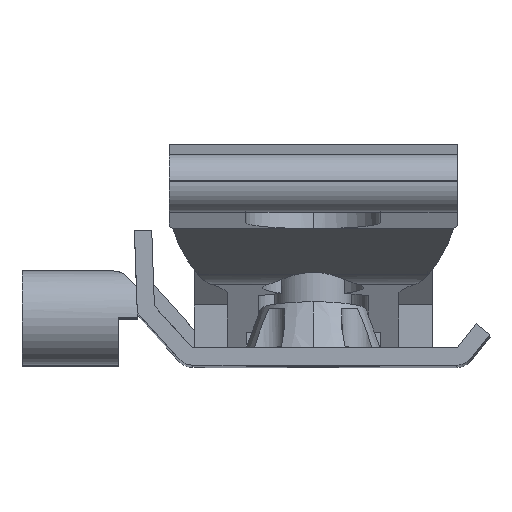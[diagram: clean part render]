
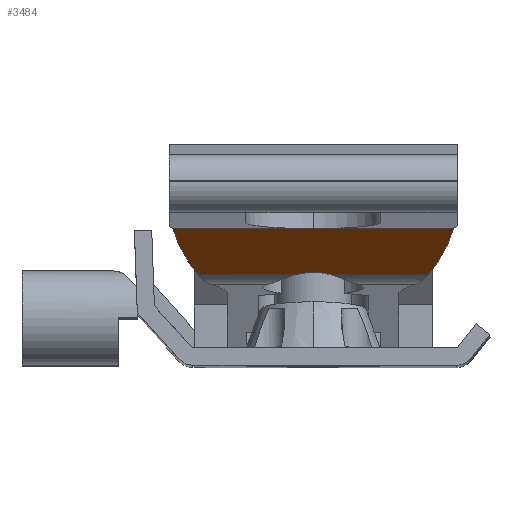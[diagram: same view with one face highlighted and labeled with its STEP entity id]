
A CAD part, top view. The second image highlights one B-rep face of the part: STEP entity #3484.
In plain terms, the highlighted planar face has unit normal (0, -0.79, 0.613).
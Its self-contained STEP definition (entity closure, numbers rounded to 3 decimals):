
#1338 = CARTESIAN_POINT ( 'NONE',  ( 15.3, 9.28, 22.43 ) ) ;
#1350 = LINE ( 'NONE', #1338, #1419 ) ;
#1354 = DIRECTION ( 'NONE',  ( 1., 0., 0. ) ) ;
#1368 = LINE ( 'NONE', #1370, #1436 ) ;
#1370 = CARTESIAN_POINT ( 'NONE',  ( 15.3, 4.492, 16.255 ) ) ;
#1371 = DIRECTION ( 'NONE',  ( 1., 0., 0. ) ) ;
#1419 = VECTOR ( 'NONE', #1354, 1000. ) ;
#1436 = VECTOR ( 'NONE', #1371, 1000. ) ;
#1544 =( BOUNDED_CURVE ( )  B_SPLINE_CURVE ( 3, ( #2175, #2180, #2181, #2182 ),
 .UNSPECIFIED., .F., .F. ) 
 B_SPLINE_CURVE_WITH_KNOTS ( ( 4, 4 ),
 ( 5.943, 6.624 ),
 .UNSPECIFIED. ) 
 CURVE ( )  GEOMETRIC_REPRESENTATION_ITEM ( )  RATIONAL_B_SPLINE_CURVE ( ( 1., 0.962, 0.962, 1. ) ) 
 REPRESENTATION_ITEM ( '' )  );
#1545 =( BOUNDED_CURVE ( )  B_SPLINE_CURVE ( 3, ( #2179, #2187, #2188, #2189 ),
 .UNSPECIFIED., .F., .T. ) 
 B_SPLINE_CURVE_WITH_KNOTS ( ( 4, 4 ),
 ( 4.157, 4.512 ),
 .UNSPECIFIED. ) 
 CURVE ( )  GEOMETRIC_REPRESENTATION_ITEM ( )  RATIONAL_B_SPLINE_CURVE ( ( 1., 0.99, 0.99, 1. ) ) 
 REPRESENTATION_ITEM ( '' )  );
#1546 =( BOUNDED_CURVE ( )  B_SPLINE_CURVE ( 3, ( #2186, #2195, #2196, #2197 ),
 .UNSPECIFIED., .F., .T. ) 
 B_SPLINE_CURVE_WITH_KNOTS ( ( 4, 4 ),
 ( 1.771, 2.127 ),
 .UNSPECIFIED. ) 
 CURVE ( )  GEOMETRIC_REPRESENTATION_ITEM ( )  RATIONAL_B_SPLINE_CURVE ( ( 1., 0.99, 0.99, 1. ) ) 
 REPRESENTATION_ITEM ( '' )  );
#2082 = LINE ( 'NONE', #2083, #2137 ) ;
#2083 = CARTESIAN_POINT ( 'NONE',  ( 15.3, 9.28, 22.43 ) ) ;
#2137 = VECTOR ( 'NONE', #2174, 1000. ) ;
#2141 = VECTOR ( 'NONE', #2185, 1000. ) ;
#2142 = VECTOR ( 'NONE', #2192, 1000. ) ;
#2174 = DIRECTION ( 'NONE',  ( 1., 0., 0. ) ) ;
#2175 = CARTESIAN_POINT ( 'NONE',  ( 28.547, 4.492, 16.255 ) ) ;
#2179 = CARTESIAN_POINT ( 'NONE',  ( 42.29, 4.492, 16.255 ) ) ;
#2180 = CARTESIAN_POINT ( 'NONE',  ( 29.692, 4.788, 16.636 ) ) ;
#2181 = CARTESIAN_POINT ( 'NONE',  ( 30.908, 4.788, 16.636 ) ) ;
#2182 = CARTESIAN_POINT ( 'NONE',  ( 32.053, 4.492, 16.255 ) ) ;
#2183 = LINE ( 'NONE', #2184, #2141 ) ;
#2184 = CARTESIAN_POINT ( 'NONE',  ( 15.3, 4.492, 16.255 ) ) ;
#2185 = DIRECTION ( 'NONE',  ( 1., 0., 0. ) ) ;
#2186 = CARTESIAN_POINT ( 'NONE',  ( 15.701, 9.28, 22.43 ) ) ;
#2187 = CARTESIAN_POINT ( 'NONE',  ( 43.546, 5.966, 18.156 ) ) ;
#2188 = CARTESIAN_POINT ( 'NONE',  ( 44.425, 7.579, 20.236 ) ) ;
#2189 = CARTESIAN_POINT ( 'NONE',  ( 44.899, 9.28, 22.43 ) ) ;
#2190 = LINE ( 'NONE', #2191, #2142 ) ;
#2191 = CARTESIAN_POINT ( 'NONE',  ( 15.3, 9.28, 22.43 ) ) ;
#2192 = DIRECTION ( 'NONE',  ( 1., 0., 0. ) ) ;
#2195 = CARTESIAN_POINT ( 'NONE',  ( 16.175, 7.579, 20.236 ) ) ;
#2196 = CARTESIAN_POINT ( 'NONE',  ( 17.054, 5.966, 18.156 ) ) ;
#2197 = CARTESIAN_POINT ( 'NONE',  ( 18.31, 4.492, 16.255 ) ) ;
#2486 = EDGE_LOOP ( 'NONE', ( #2629, #2630, #2631, #2632, #2633, #2634, #2635, #2636 ) ) ;
#2629 = ORIENTED_EDGE ( 'NONE', *, *, #5281, .T. ) ;
#2630 = ORIENTED_EDGE ( 'NONE', *, *, #5426, .T. ) ;
#2631 = ORIENTED_EDGE ( 'NONE', *, *, #5427, .T. ) ;
#2632 = ORIENTED_EDGE ( 'NONE', *, *, #5428, .T. ) ;
#2633 = ORIENTED_EDGE ( 'NONE', *, *, #5424, .F. ) ;
#2634 = ORIENTED_EDGE ( 'NONE', *, *, #5429, .F. ) ;
#2635 = ORIENTED_EDGE ( 'NONE', *, *, #5278, .F. ) ;
#2636 = ORIENTED_EDGE ( 'NONE', *, *, #5430, .T. ) ;
#3435 = VERTEX_POINT ( 'NONE', #4074 ) ;
#3437 = VERTEX_POINT ( 'NONE', #4833 ) ;
#3484 = ADVANCED_FACE ( 'NONE', ( #6083 ), #6084, .F. ) ;
#4074 = CARTESIAN_POINT ( 'NONE',  ( 44.899, 9.28, 22.43 ) ) ;
#4602 = VERTEX_POINT ( 'NONE', #8100 ) ;
#4807 = VERTEX_POINT ( 'NONE', #8747 ) ;
#4827 = VERTEX_POINT ( 'NONE', #8767 ) ;
#4833 = CARTESIAN_POINT ( 'NONE',  ( 32.053, 4.492, 16.255 ) ) ;
#4855 = VERTEX_POINT ( 'NONE', #8793 ) ;
#4857 = VERTEX_POINT ( 'NONE', #8795 ) ;
#4858 = VERTEX_POINT ( 'NONE', #8796 ) ;
#5278 = EDGE_CURVE ( 'NONE', #4855, #4602, #1350, .T. ) ;
#5281 = EDGE_CURVE ( 'NONE', #4857, #4858, #1368, .T. ) ;
#5424 = EDGE_CURVE ( 'NONE', #4827, #3435, #2082, .T. ) ;
#5426 = EDGE_CURVE ( 'NONE', #4858, #3437, #1544, .T. ) ;
#5427 = EDGE_CURVE ( 'NONE', #3437, #4807, #2183, .T. ) ;
#5428 = EDGE_CURVE ( 'NONE', #4807, #3435, #1545, .T. ) ;
#5429 = EDGE_CURVE ( 'NONE', #4602, #4827, #2190, .T. ) ;
#5430 = EDGE_CURVE ( 'NONE', #4855, #4857, #1546, .T. ) ;
#6079 = CARTESIAN_POINT ( 'NONE',  ( 15.3, 4.492, 16.255 ) ) ;
#6083 = FACE_OUTER_BOUND ( 'NONE', #2486, .T. ) ;
#6084 = PLANE ( 'NONE',  #9390 ) ;
#6086 = DIRECTION ( 'NONE',  ( 0., 0.79, -0.613 ) ) ;
#6087 = DIRECTION ( 'NONE',  ( 0., -0.613, -0.79 ) ) ;
#8100 = CARTESIAN_POINT ( 'NONE',  ( 29.028, 9.28, 22.43 ) ) ;
#8747 = CARTESIAN_POINT ( 'NONE',  ( 42.29, 4.492, 16.255 ) ) ;
#8767 = CARTESIAN_POINT ( 'NONE',  ( 31.572, 9.28, 22.43 ) ) ;
#8793 = CARTESIAN_POINT ( 'NONE',  ( 15.701, 9.28, 22.43 ) ) ;
#8795 = CARTESIAN_POINT ( 'NONE',  ( 18.31, 4.492, 16.255 ) ) ;
#8796 = CARTESIAN_POINT ( 'NONE',  ( 28.547, 4.492, 16.255 ) ) ;
#9390 = AXIS2_PLACEMENT_3D ( 'NONE', #6079, #6086, #6087 ) ;
